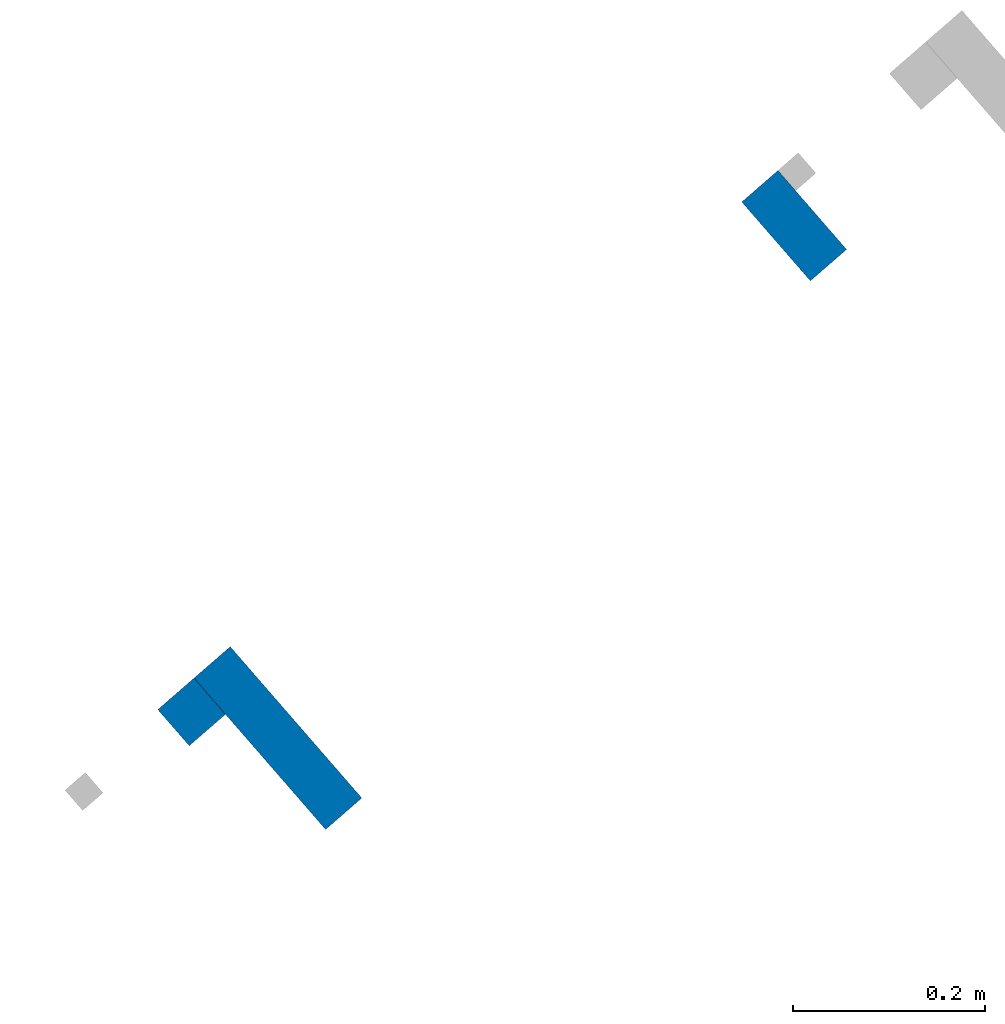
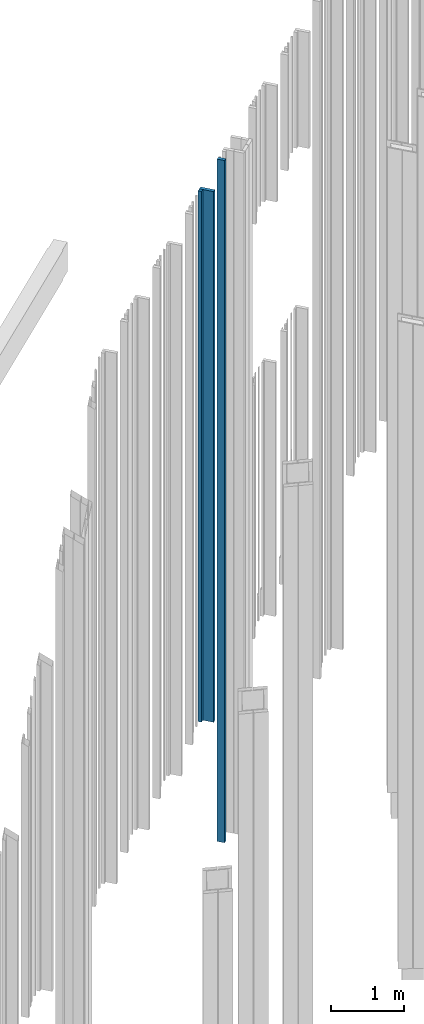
# One storey, part 253 of 390: 3 walls.
"""IFC2X3 building model written with IfcOpenShell, lengths in millimetres."""

from ifc_helpers import new_model, entity, si_unit, converted_unit, derived_unit, money_unit, direction, frame, origin_with_axes, place, context, subcontext, project, spatial, faceted_brep, material, type_object, element, save


model = new_model("IFC2X3")

# Units and contexts
model_context = context("Model", 3, precision=1e-05, world=origin_with_axes(), true_north=direction((0.0, 1.0)))
body_context = subcontext(model_context, "Body", "Model", "MODEL_VIEW")
ifc_project = project(units=[si_unit("LENGTHUNIT", "METRE", prefix="MILLI"), si_unit("AREAUNIT", "SQUARE_METRE"), si_unit("VOLUMEUNIT", "CUBIC_METRE"), converted_unit("PLANEANGLEUNIT", "DEGREE", entity("IfcPlaneAngleMeasure", 0.0174532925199), si_unit("PLANEANGLEUNIT", "RADIAN"), dimensions=[0, 0, 0, 0, 0, 0, 0]), si_unit("SOLIDANGLEUNIT", "STERADIAN"), money_unit("EUR"), converted_unit("TIMEUNIT", "Year", entity("IfcTimeMeasure", 31556926.0), si_unit("TIMEUNIT", "SECOND"), dimensions=[0, 0, 1, 0, 0, 0, 0]), si_unit("MASSUNIT", "GRAM", prefix="KILO"), si_unit("THERMODYNAMICTEMPERATUREUNIT", "DEGREE_CELSIUS"), si_unit("LUMINOUSINTENSITYUNIT", "LUMEN"), si_unit("ENERGYUNIT", "JOULE", prefix="MEGA"), derived_unit("THERMALCONDUCTANCEUNIT", [(si_unit("POWERUNIT", "WATT"), 1), (si_unit("LENGTHUNIT", "METRE"), -1), (si_unit("THERMODYNAMICTEMPERATUREUNIT", "KELVIN"), -1)]), derived_unit("SPECIFICHEATCAPACITYUNIT", [(si_unit("ENERGYUNIT", "JOULE"), 1), (si_unit("MASSUNIT", "GRAM", prefix="KILO"), -1), (si_unit("THERMODYNAMICTEMPERATUREUNIT", "KELVIN"), -1)]), derived_unit("MASSDENSITYUNIT", [(si_unit("MASSUNIT", "GRAM", prefix="KILO"), 1), (si_unit("VOLUMEUNIT", "CUBIC_METRE"), -1)])], contexts=[model_context])

# Site, building, storey
site_placement = place(None, origin_with_axes())
site = spatial("IfcSite", under=ifc_project, at=site_placement, Name="Site", CompositionType="ELEMENT")
building_placement = place(site_placement, origin_with_axes())
building = spatial("IfcBuilding", under=site, at=building_placement, Name="Building", CompositionType="ELEMENT")
storey_placement = place(building_placement, origin_with_axes())
storey = spatial("IfcBuildingStorey", under=building, at=storey_placement, Name="1 korrus", CompositionType="ELEMENT", Elevation=0.0)

# Walls
ifc_material = material(Name="Site specified")
wall_type = type_object("IfcWallType", Name="Puitfassaadi ribistik", PredefinedType="NOTDEFINED")
wall_1_placement = place(storey_placement, frame((162866.677982, 86169.3719738, -1615.0), z_axis=(0.0, 0.0, 1.0), x_axis=(-0.754709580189, -0.65605902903, 0.0)))
element("IfcWall", 1, at=wall_1_placement, inside=storey, type_object=wall_type, material=ifc_material, Name="Site specified", context=body_context, shape_type="Brep", body=[
    faceted_brep([(-25.0, -54.5, 11480.0), (-25.0, -54.5, 0.0), (25.0, -54.5, 0.0), (25.0, -54.5, 11480.0), (-25.0, 54.5, 11480.0), (-25.0, 54.5, 0.0), (25.0, 54.5, 0.0), (25.0, 54.5, 11480.0)], [[[0, 1, 2, 3]], [[4, 5, 1, 0]], [[2, 1, 5, 6]], [[3, 2, 6, 7]], [[4, 0, 3, 7]], [[7, 6, 5, 4]]]),
])
wall_2_placement = place(storey_placement, frame((162328.920491, 85635.6558688, 935.000018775), z_axis=(0.0, 0.0, 1.0), x_axis=(-0.754709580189, -0.65605902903, 0.0)))
element("IfcWall", 2, at=wall_2_placement, inside=storey, type_object=wall_type, material=ifc_material, Name="Site specified", context=body_context, shape_type="Brep", body=[
    faceted_brep([(-25.0, -104.5, 8929.99998122), (-25.0, -104.5, 0.0), (25.0, -104.5, 0.0), (25.0, -104.5, 8929.99998122), (-25.0, 104.5, 8929.99998122), (-25.0, 104.5, 0.0), (25.0, 104.5, 0.0), (25.0, 104.5, 8929.99998122)], [[[0, 1, 2, 3]], [[4, 5, 1, 0]], [[2, 1, 5, 6]], [[3, 2, 6, 7]], [[4, 0, 3, 7]], [[7, 6, 5, 4]]]),
])
wall_3_placement = place(storey_placement, frame((162239.028319, 85662.852329, 935.000018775), z_axis=(0.0, 0.0, 1.0), x_axis=(-0.754709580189, -0.65605902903, 0.0)))
element("IfcWall", 3, at=wall_3_placement, inside=storey, type_object=wall_type, material=ifc_material, Name="Site specified", context=body_context, shape_type="Brep", body=[
    faceted_brep([(-25.0, -25.0, 8929.99998122), (-25.0, -25.0, 0.0), (25.0, -25.0, 0.0), (25.0, -25.0, 8929.99998122), (-25.0, 25.0, 8929.99998122), (-25.0, 25.0, 0.0), (25.0, 25.0, 0.0), (25.0, 25.0, 8929.99998122)], [[[0, 1, 2, 3]], [[4, 5, 1, 0]], [[2, 1, 5, 6]], [[3, 2, 6, 7]], [[4, 0, 3, 7]], [[7, 6, 5, 4]]]),
])

save(model, "model.ifc")
